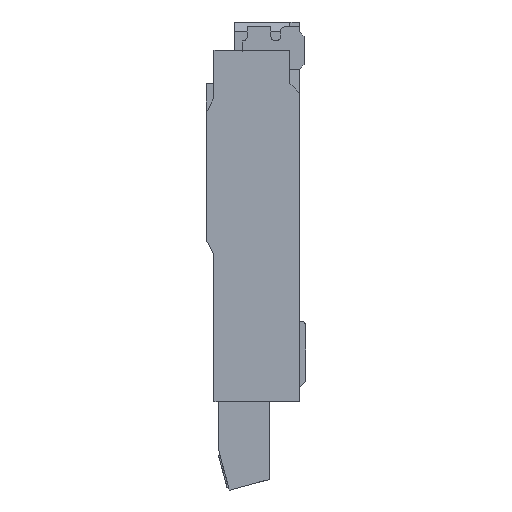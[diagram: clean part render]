
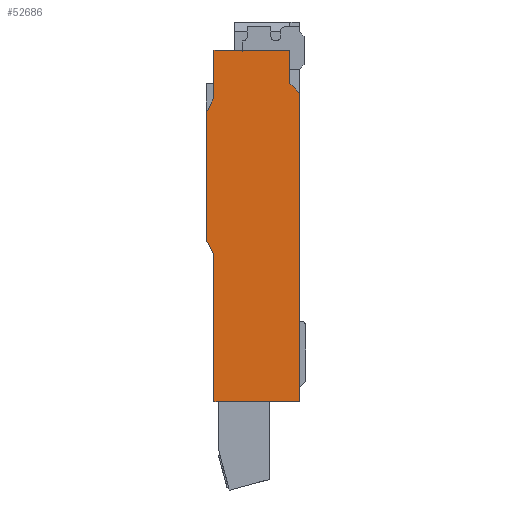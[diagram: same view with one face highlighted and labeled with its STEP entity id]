
A CAD part, left-side view. The second image highlights one B-rep face of the part: STEP entity #52686.
In plain terms, the highlighted planar face has unit normal (-1, 0, 0).
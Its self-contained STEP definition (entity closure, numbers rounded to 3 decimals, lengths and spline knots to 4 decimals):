
#2481 = VECTOR ( 'NONE', #59541, 1000. ) ;
#2816 = CARTESIAN_POINT ( 'NONE',  ( 0., 0.9, -1.8 ) ) ;
#5407 = VECTOR ( 'NONE', #10874, 1000. ) ;
#6140 = VERTEX_POINT ( 'NONE', #60114 ) ;
#7217 = ORIENTED_EDGE ( 'NONE', *, *, #40158, .T. ) ;
#7359 = LINE ( 'NONE', #2816, #71501 ) ;
#10520 = CARTESIAN_POINT ( 'NONE',  ( 0., 0.98, 0.65 ) ) ;
#10636 = LINE ( 'NONE', #10520, #74801 ) ;
#10874 = DIRECTION ( 'NONE',  ( 0., 0.707, 0.707 ) ) ;
#11111 = VERTEX_POINT ( 'NONE', #15553 ) ;
#11291 = VERTEX_POINT ( 'NONE', #18850 ) ;
#11479 = VERTEX_POINT ( 'NONE', #70421 ) ;
#11518 = DIRECTION ( 'NONE',  ( 0., -1., 0. ) ) ;
#11539 = EDGE_CURVE ( 'NONE', #76444, #11111, #7359, .T. ) ;
#12343 = ORIENTED_EDGE ( 'NONE', *, *, #72478, .T. ) ;
#13193 = EDGE_CURVE ( 'NONE', #11291, #73342, #62456, .T. ) ;
#13249 = DIRECTION ( 'NONE',  ( 0., 0., -1. ) ) ;
#13782 = VECTOR ( 'NONE', #13249, 1000. ) ;
#14535 = ORIENTED_EDGE ( 'NONE', *, *, #13193, .F. ) ;
#15553 = CARTESIAN_POINT ( 'NONE',  ( 0., 0.9, -1.8 ) ) ;
#15733 = LINE ( 'NONE', #62994, #13782 ) ;
#15737 = CARTESIAN_POINT ( 'NONE',  ( 0., 0.98, 0.65 ) ) ;
#16218 = ORIENTED_EDGE ( 'NONE', *, *, #29415, .F. ) ;
#16732 = DIRECTION ( 'NONE',  ( 0., 0., 1. ) ) ;
#16853 = CARTESIAN_POINT ( 'NONE',  ( 0., 0.1, 0. ) ) ;
#18116 = ORIENTED_EDGE ( 'NONE', *, *, #47693, .T. ) ;
#18850 = CARTESIAN_POINT ( 'NONE',  ( 0., 0.1, 0.35 ) ) ;
#18987 = LINE ( 'NONE', #28548, #2481 ) ;
#21314 = EDGE_CURVE ( 'NONE', #68389, #11291, #53280, .T. ) ;
#21913 = LINE ( 'NONE', #48062, #5407 ) ;
#22019 = DIRECTION ( 'NONE',  ( -1., 0., 0. ) ) ;
#23826 = DIRECTION ( 'NONE',  ( 0., 0., -1. ) ) ;
#23863 = CARTESIAN_POINT ( 'NONE',  ( 0., 0., -3.35 ) ) ;
#24878 = DIRECTION ( 'NONE',  ( 0., 0., -1. ) ) ;
#24897 = CARTESIAN_POINT ( 'NONE',  ( 0., 0.9, -3.35 ) ) ;
#25965 = CARTESIAN_POINT ( 'NONE',  ( 0., 0.9, 0.65 ) ) ;
#26118 = ORIENTED_EDGE ( 'NONE', *, *, #11539, .T. ) ;
#27620 = ORIENTED_EDGE ( 'NONE', *, *, #21314, .F. ) ;
#28548 = CARTESIAN_POINT ( 'NONE',  ( 0., 0., -3.35 ) ) ;
#29415 = EDGE_CURVE ( 'NONE', #76444, #73989, #10636, .T. ) ;
#31258 = VERTEX_POINT ( 'NONE', #24897 ) ;
#32202 = DIRECTION ( 'NONE',  ( 0., 0., -1. ) ) ;
#35195 = ORIENTED_EDGE ( 'NONE', *, *, #80535, .T. ) ;
#36368 = VECTOR ( 'NONE', #77744, 1000. ) ;
#36700 = CARTESIAN_POINT ( 'NONE',  ( 0., 0.98, -1.65 ) ) ;
#40158 = EDGE_CURVE ( 'NONE', #11111, #31258, #61518, .T. ) ;
#42721 = CARTESIAN_POINT ( 'NONE',  ( 0., 0.98, 0.35 ) ) ;
#43307 = CARTESIAN_POINT ( 'NONE',  ( 0., 0., 0.65 ) ) ;
#46151 = DIRECTION ( 'NONE',  ( 0., -0.471, -0.882 ) ) ;
#46321 = LINE ( 'NONE', #43307, #60957 ) ;
#47693 = EDGE_CURVE ( 'NONE', #68389, #6140, #15733, .T. ) ;
#48062 = CARTESIAN_POINT ( 'NONE',  ( 0., 0.1, 0. ) ) ;
#49021 = EDGE_LOOP ( 'NONE', ( #18116, #12343, #16218, #26118, #7217, #64157, #57258, #35195, #14535, #27620 ) ) ;
#52686 = ADVANCED_FACE ( 'NONE', ( #79422 ), #52936, .T. ) ;
#52856 = LINE ( 'NONE', #71799, #36368 ) ;
#52936 = PLANE ( 'NONE',  #74550 ) ;
#53280 = LINE ( 'NONE', #42721, #67941 ) ;
#55076 = CARTESIAN_POINT ( 'NONE',  ( 0., 0.98, -0.3 ) ) ;
#55608 = VERTEX_POINT ( 'NONE', #23863 ) ;
#57258 = ORIENTED_EDGE ( 'NONE', *, *, #79614, .F. ) ;
#59541 = DIRECTION ( 'NONE',  ( 0., 1., 0. ) ) ;
#60114 = CARTESIAN_POINT ( 'NONE',  ( 0., 0.9, -0.15 ) ) ;
#60957 = VECTOR ( 'NONE', #24878, 1000. ) ;
#61024 = CARTESIAN_POINT ( 'NONE',  ( 0., 0.1, 0.973 ) ) ;
#61518 = LINE ( 'NONE', #25965, #76103 ) ;
#62456 = LINE ( 'NONE', #61024, #75082 ) ;
#62994 = CARTESIAN_POINT ( 'NONE',  ( 0., 0.9, -0.15 ) ) ;
#63945 = CARTESIAN_POINT ( 'NONE',  ( 0., 0.9, 0.35 ) ) ;
#64157 = ORIENTED_EDGE ( 'NONE', *, *, #65833, .F. ) ;
#65505 = DIRECTION ( 'NONE',  ( 0., 0., 1. ) ) ;
#65833 = EDGE_CURVE ( 'NONE', #55608, #31258, #18987, .T. ) ;
#67941 = VECTOR ( 'NONE', #11518, 1000. ) ;
#68389 = VERTEX_POINT ( 'NONE', #63945 ) ;
#70421 = CARTESIAN_POINT ( 'NONE',  ( 0., 0., -0.1 ) ) ;
#71501 = VECTOR ( 'NONE', #46151, 1000. ) ;
#71799 = CARTESIAN_POINT ( 'NONE',  ( 0., 0.5855, 0.4396 ) ) ;
#72478 = EDGE_CURVE ( 'NONE', #6140, #73989, #52856, .T. ) ;
#73342 = VERTEX_POINT ( 'NONE', #16853 ) ;
#73989 = VERTEX_POINT ( 'NONE', #55076 ) ;
#74550 = AXIS2_PLACEMENT_3D ( 'NONE', #15737, #22019, #65505 ) ;
#74801 = VECTOR ( 'NONE', #16732, 1000. ) ;
#75082 = VECTOR ( 'NONE', #23826, 1000. ) ;
#76103 = VECTOR ( 'NONE', #32202, 1000. ) ;
#76444 = VERTEX_POINT ( 'NONE', #36700 ) ;
#77744 = DIRECTION ( 'NONE',  ( 0., 0.471, -0.882 ) ) ;
#79422 = FACE_OUTER_BOUND ( 'NONE', #49021, .T. ) ;
#79614 = EDGE_CURVE ( 'NONE', #11479, #55608, #46321, .T. ) ;
#80535 = EDGE_CURVE ( 'NONE', #11479, #73342, #21913, .T. ) ;
